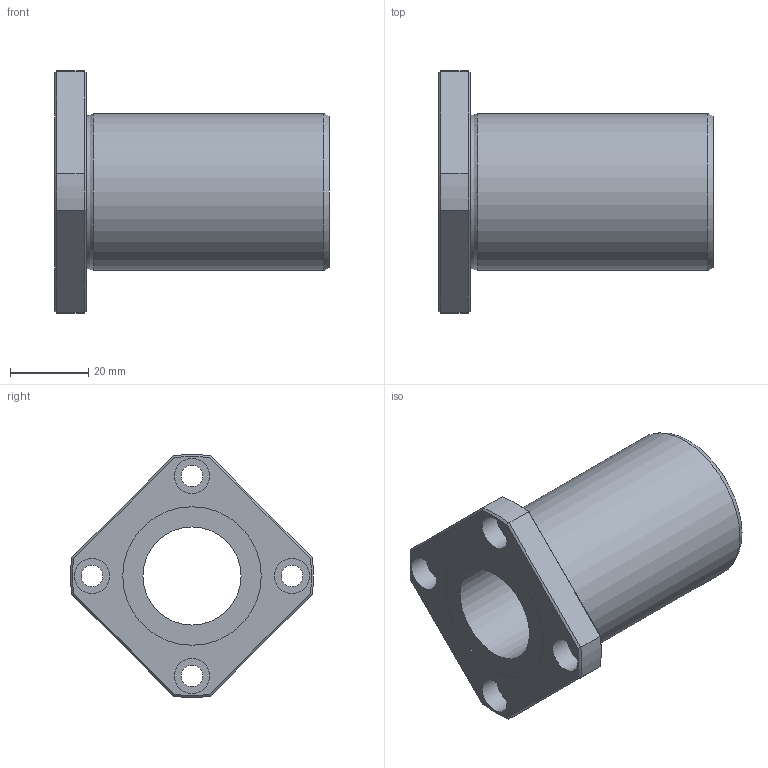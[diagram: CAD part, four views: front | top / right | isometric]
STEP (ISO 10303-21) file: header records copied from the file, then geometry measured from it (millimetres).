
FILE_DESCRIPTION((''),'2;1');
FILE_NAME('D:\製品 (図面)\カタログ用3D\メンテナンスフリー関連\STEP形式\LFK-MF\LFK25MF.stp','2010-06-01T15:52:37',('Tsuchiya'),(''),'Autodesk Inventor 10','Autodesk Inventor 10','');
FILE_SCHEMA(('AUTOMOTIVE_DESIGN { 1 0 10303 214 1 1 1 1 }'));
Length unit declared in the file: millimetre
Products named in the file (1): LFK25MF
Bounding box: 70 x 61.92 x 61.92 mm (x, y, z)
Volume: 61017.9 mm3; surface area: 19110.8 mm2
Topology: 1 solids, 1 shells, 47 faces, 96 edges, 58 vertices
Faces by surface type: plane 21, cylinder 16, cone 8, torus 1, bspline 1
Full cylindrical faces by diameter (mm): 5.5 x4, 9 x4, 25 x1, 35.3 x2, 40 x1
Entity records: 1275 total; most frequent: CARTESIAN_POINT 298, DIRECTION 202, ORIENTED_EDGE 164, AXIS2_PLACEMENT_3D 89, EDGE_CURVE 82, EDGE_LOOP 78, VERTEX_POINT 58, FACE_OUTER_BOUND 47
